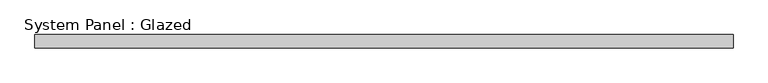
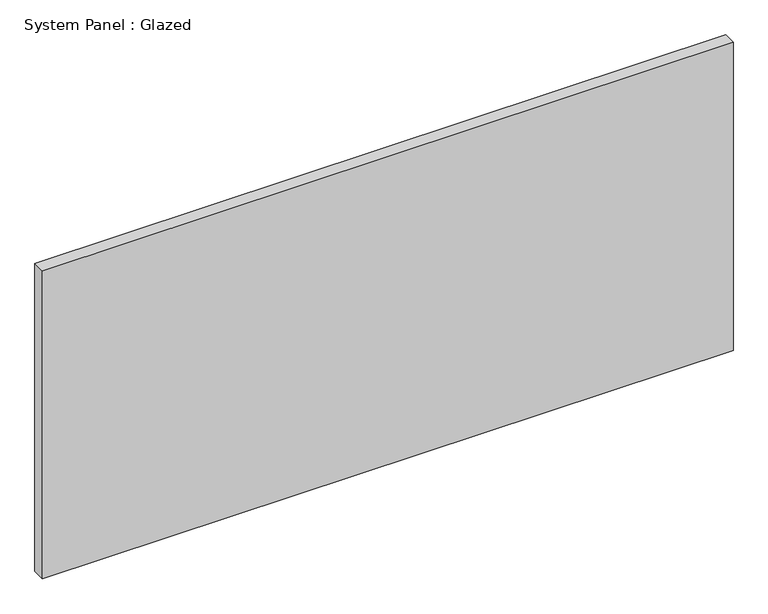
"""IFC4 building model written with IfcOpenShell, lengths in millimetres: plate geometry, System Panel : Glazed."""

from ifc_helpers import new_model, si_unit, origin, origin_with_axes, place, context, project, spatial, polyline, outline, extrude, source, transform, mapped, element, save


def system_panel_glazed_c62e4b68(model_context):
    return source(origin(), model_context, "Body", "SweptSolid", [
        extrude(outline(polyline([(662.4999998, -49.5), (-662.4999998, -49.5), (-662.4999998, -24.5), (662.4999998, -24.5), (662.4999998, -49.5)])), origin_with_axes(), (0.0, 0.0, 1.0), 625.0),
    ])


if __name__ == "__main__":
    model = new_model("IFC4")
    model_context = context("Model", 3, world=origin())
    ifc_project = project(units=[si_unit("LENGTHUNIT", "METRE", prefix="MILLI")], contexts=[model_context])
    site = spatial("IfcSite", under=ifc_project)
    building = spatial("IfcBuilding", under=site)
    placement = place(None, origin())
    system_panel_glazed_shape = system_panel_glazed_c62e4b68(model_context)
    element("IfcPlate", 1, ObjectType="System Panel : Glazed", at=placement, inside=building, context=model_context, shape_type="MappedRepresentation", body=[
        mapped(system_panel_glazed_shape, transform((0.0, 0.0, 0.0), x_axis=(1.0, 0.0, 0.0), y_axis=(0.0, 1.0, 0.0), z_axis=(0.0, 0.0, 1.0))),
    ])
    save(model, "model.ifc")
